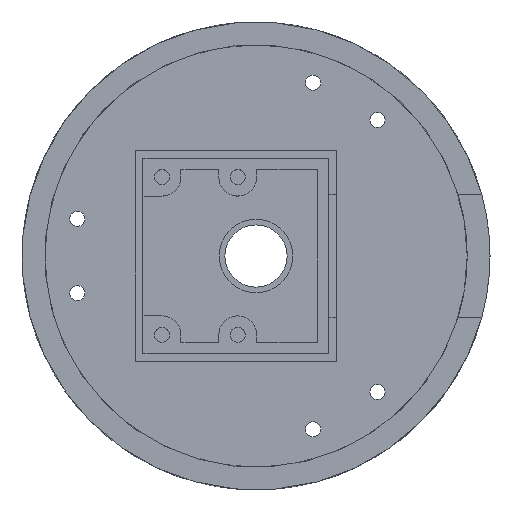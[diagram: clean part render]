
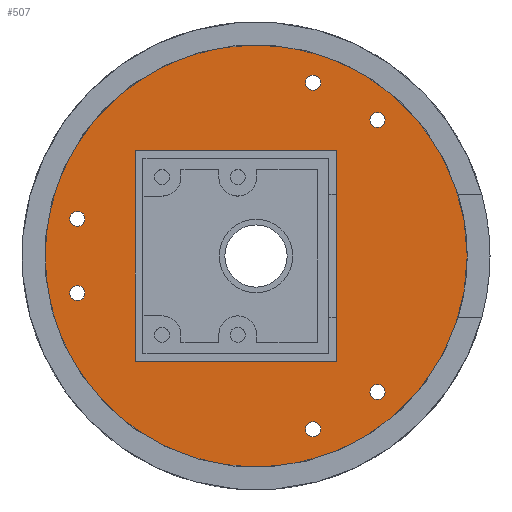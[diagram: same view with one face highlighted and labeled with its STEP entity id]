
A CAD part, top view. The second image highlights one B-rep face of the part: STEP entity #507.
In plain terms, the highlighted planar face has unit normal (0, 0, 1).
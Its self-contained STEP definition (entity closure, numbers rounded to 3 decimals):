
#310 = VERTEX_POINT('',#311);
#311 = CARTESIAN_POINT('',(27.85,0.,2.9));
#317 = EDGE_CURVE('',#310,#310,#318,.T.);
#318 = CIRCLE('',#319,27.85);
#319 = AXIS2_PLACEMENT_3D('',#320,#321,#322);
#320 = CARTESIAN_POINT('',(0.,0.,2.9));
#321 = DIRECTION('',(0.,0.,1.));
#322 = DIRECTION('',(1.,0.,0.));
#507 = ADVANCED_FACE('',(#508,#511,#522,#533,#544,#555,#589,#600),#611,
  .T.);
#508 = FACE_BOUND('',#509,.T.);
#509 = EDGE_LOOP('',(#510));
#510 = ORIENTED_EDGE('',*,*,#317,.T.);
#511 = FACE_BOUND('',#512,.T.);
#512 = EDGE_LOOP('',(#513));
#513 = ORIENTED_EDGE('',*,*,#514,.F.);
#514 = EDGE_CURVE('',#515,#515,#517,.T.);
#515 = VERTEX_POINT('',#516);
#516 = CARTESIAN_POINT('',(-22.546,-4.9,2.9));
#517 = CIRCLE('',#518,1.);
#518 = AXIS2_PLACEMENT_3D('',#519,#520,#521);
#519 = CARTESIAN_POINT('',(-23.546,-4.9,2.9));
#520 = DIRECTION('',(0.,0.,1.));
#521 = DIRECTION('',(1.,0.,0.));
#522 = FACE_BOUND('',#523,.T.);
#523 = EDGE_LOOP('',(#524));
#524 = ORIENTED_EDGE('',*,*,#525,.F.);
#525 = EDGE_CURVE('',#526,#526,#528,.T.);
#526 = VERTEX_POINT('',#527);
#527 = CARTESIAN_POINT('',(7.029,-21.975,2.9));
#528 = CIRCLE('',#529,1.);
#529 = AXIS2_PLACEMENT_3D('',#530,#531,#532);
#530 = CARTESIAN_POINT('',(7.529,-22.841,2.9));
#531 = DIRECTION('',(0.,0.,1.));
#532 = DIRECTION('',(-0.5,0.866,0.));
#533 = FACE_BOUND('',#534,.T.);
#534 = EDGE_LOOP('',(#535));
#535 = ORIENTED_EDGE('',*,*,#536,.F.);
#536 = EDGE_CURVE('',#537,#537,#539,.T.);
#537 = VERTEX_POINT('',#538);
#538 = CARTESIAN_POINT('',(15.516,-17.075,2.9));
#539 = CIRCLE('',#540,1.);
#540 = AXIS2_PLACEMENT_3D('',#541,#542,#543);
#541 = CARTESIAN_POINT('',(16.016,-17.941,2.9));
#542 = DIRECTION('',(0.,0.,1.));
#543 = DIRECTION('',(-0.5,0.866,0.));
#544 = FACE_BOUND('',#545,.T.);
#545 = EDGE_LOOP('',(#546));
#546 = ORIENTED_EDGE('',*,*,#547,.F.);
#547 = EDGE_CURVE('',#548,#548,#550,.T.);
#548 = VERTEX_POINT('',#549);
#549 = CARTESIAN_POINT('',(-22.546,4.9,2.9));
#550 = CIRCLE('',#551,1.);
#551 = AXIS2_PLACEMENT_3D('',#552,#553,#554);
#552 = CARTESIAN_POINT('',(-23.546,4.9,2.9));
#553 = DIRECTION('',(0.,0.,1.));
#554 = DIRECTION('',(1.,0.,0.));
#555 = FACE_BOUND('',#556,.T.);
#556 = EDGE_LOOP('',(#557,#567,#575,#583));
#557 = ORIENTED_EDGE('',*,*,#558,.T.);
#558 = EDGE_CURVE('',#559,#561,#563,.T.);
#559 = VERTEX_POINT('',#560);
#560 = CARTESIAN_POINT('',(-15.9,-13.9,2.9));
#561 = VERTEX_POINT('',#562);
#562 = CARTESIAN_POINT('',(-15.9,13.9,2.9));
#563 = LINE('',#564,#565);
#564 = CARTESIAN_POINT('',(-15.9,-13.9,2.9));
#565 = VECTOR('',#566,1.);
#566 = DIRECTION('',(0.,1.,0.));
#567 = ORIENTED_EDGE('',*,*,#568,.T.);
#568 = EDGE_CURVE('',#561,#569,#571,.T.);
#569 = VERTEX_POINT('',#570);
#570 = CARTESIAN_POINT('',(10.6,13.9,2.9));
#571 = LINE('',#572,#573);
#572 = CARTESIAN_POINT('',(-15.9,13.9,2.9));
#573 = VECTOR('',#574,1.);
#574 = DIRECTION('',(1.,0.,0.));
#575 = ORIENTED_EDGE('',*,*,#576,.T.);
#576 = EDGE_CURVE('',#569,#577,#579,.T.);
#577 = VERTEX_POINT('',#578);
#578 = CARTESIAN_POINT('',(10.6,-13.9,2.9));
#579 = LINE('',#580,#581);
#580 = CARTESIAN_POINT('',(10.6,13.9,2.9));
#581 = VECTOR('',#582,1.);
#582 = DIRECTION('',(0.,-1.,0.));
#583 = ORIENTED_EDGE('',*,*,#584,.T.);
#584 = EDGE_CURVE('',#577,#559,#585,.T.);
#585 = LINE('',#586,#587);
#586 = CARTESIAN_POINT('',(10.6,-13.9,2.9));
#587 = VECTOR('',#588,1.);
#588 = DIRECTION('',(-1.,0.,0.));
#589 = FACE_BOUND('',#590,.T.);
#590 = EDGE_LOOP('',(#591));
#591 = ORIENTED_EDGE('',*,*,#592,.F.);
#592 = EDGE_CURVE('',#593,#593,#595,.T.);
#593 = VERTEX_POINT('',#594);
#594 = CARTESIAN_POINT('',(7.029,21.975,2.9));
#595 = CIRCLE('',#596,1.);
#596 = AXIS2_PLACEMENT_3D('',#597,#598,#599);
#597 = CARTESIAN_POINT('',(7.529,22.841,2.9));
#598 = DIRECTION('',(0.,0.,1.));
#599 = DIRECTION('',(-0.5,-0.866,0.));
#600 = FACE_BOUND('',#601,.T.);
#601 = EDGE_LOOP('',(#602));
#602 = ORIENTED_EDGE('',*,*,#603,.F.);
#603 = EDGE_CURVE('',#604,#604,#606,.T.);
#604 = VERTEX_POINT('',#605);
#605 = CARTESIAN_POINT('',(15.516,17.075,2.9));
#606 = CIRCLE('',#607,1.);
#607 = AXIS2_PLACEMENT_3D('',#608,#609,#610);
#608 = CARTESIAN_POINT('',(16.016,17.941,2.9));
#609 = DIRECTION('',(0.,0.,1.));
#610 = DIRECTION('',(-0.5,-0.866,0.));
#611 = PLANE('',#612);
#612 = AXIS2_PLACEMENT_3D('',#613,#614,#615);
#613 = CARTESIAN_POINT('',(0.,0.,2.9));
#614 = DIRECTION('',(0.,0.,1.));
#615 = DIRECTION('',(1.,0.,0.));
